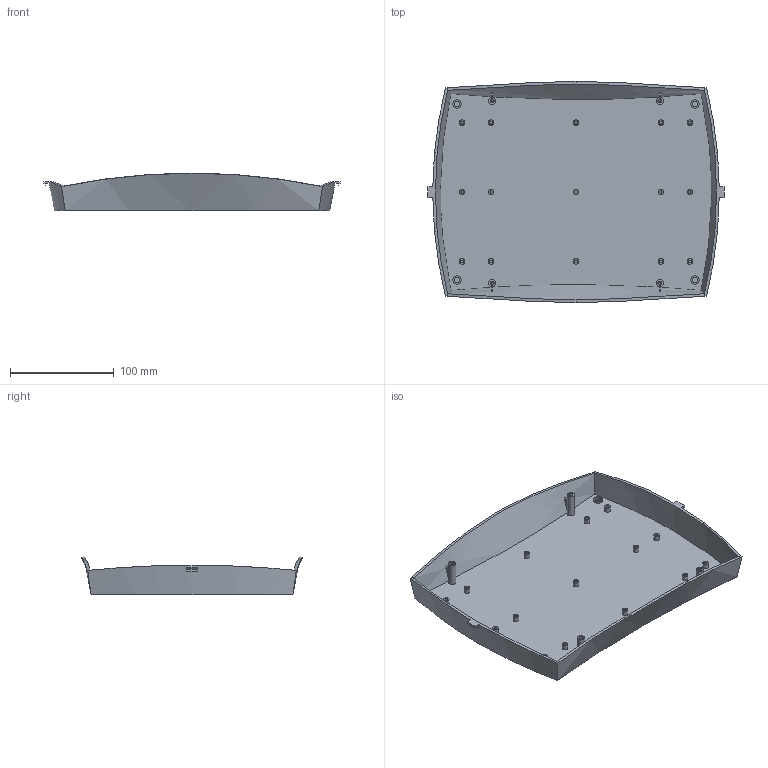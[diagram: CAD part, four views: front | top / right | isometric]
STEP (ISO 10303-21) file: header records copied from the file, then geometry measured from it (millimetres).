
FILE_DESCRIPTION (( 'STEP AP214' ), '1' );
FILE_NAME ('Base PP104.STEP', '2017-11-24T15:20:49', ( 'aaa' ), ( '' ), 'SwSTEP 2.0', 'SolidWorks 2013', '' );
FILE_SCHEMA (( 'AUTOMOTIVE_DESIGN' ));
Length unit declared in the file: millimetre
Products named in the file (1): Base PP104
Bounding box: 286 x 213.47 x 36.57 mm (x, y, z)
Volume: 189911.4 mm3; surface area: 156149.4 mm2
Topology: 1 solids, 1 shells, 246 faces, 568 edges, 378 vertices
Faces by surface type: cylinder 124, plane 110, bspline 8, cone 4
Entity records: 7686 total; most frequent: CARTESIAN_POINT 2015, DIRECTION 1192, ORIENTED_EDGE 1136, EDGE_CURVE 568, AXIS2_PLACEMENT_3D 489, VERTEX_POINT 378, EDGE_LOOP 300, CIRCLE 250
